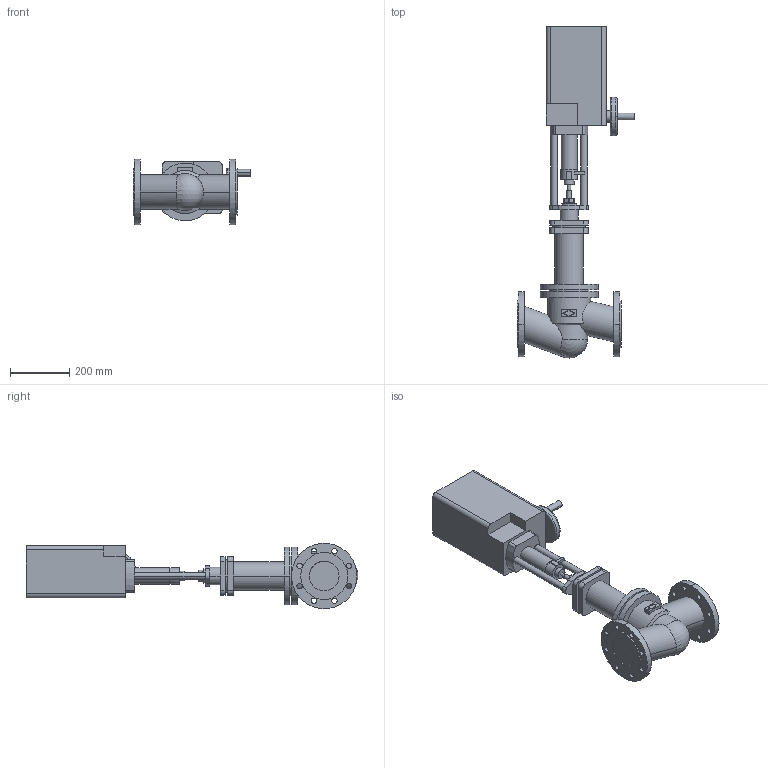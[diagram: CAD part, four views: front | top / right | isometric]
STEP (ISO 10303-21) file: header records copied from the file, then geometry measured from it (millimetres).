
FILE_DESCRIPTION( ( '' ), '1' );
FILE_NAME( 'F:/DE-SHS/TB/OR/04-Sonstiges/daten/files_3d/441-PN16-PREMIO/c000002073.stp', '2013-06-20T10:47:46', ( '' ), ( '' ), ' ', ' ', ' ' );
FILE_SCHEMA( ( 'CONFIG_CONTROL_DESIGN' ) );
Length unit declared in the file: millimetre
Products named in the file (2): 1; 2
Bounding box: 396.5 x 1117.25 x 220 mm (x, y, z)
Volume: 22477734.6 mm3; surface area: 973463.1 mm2
Topology: 2 solids, 2 shells, 218 faces, 547 edges, 364 vertices
Faces by surface type: cylinder 116, plane 95, torus 4, cone 2, sphere 1
Entity records: 7294 total; most frequent: CARTESIAN_POINT 1673, DIRECTION 1232, ORIENTED_EDGE 1090, EDGE_CURVE 545, AXIS2_PLACEMENT_3D 481, VERTEX_POINT 364, EDGE_LOOP 283, LINE 270
